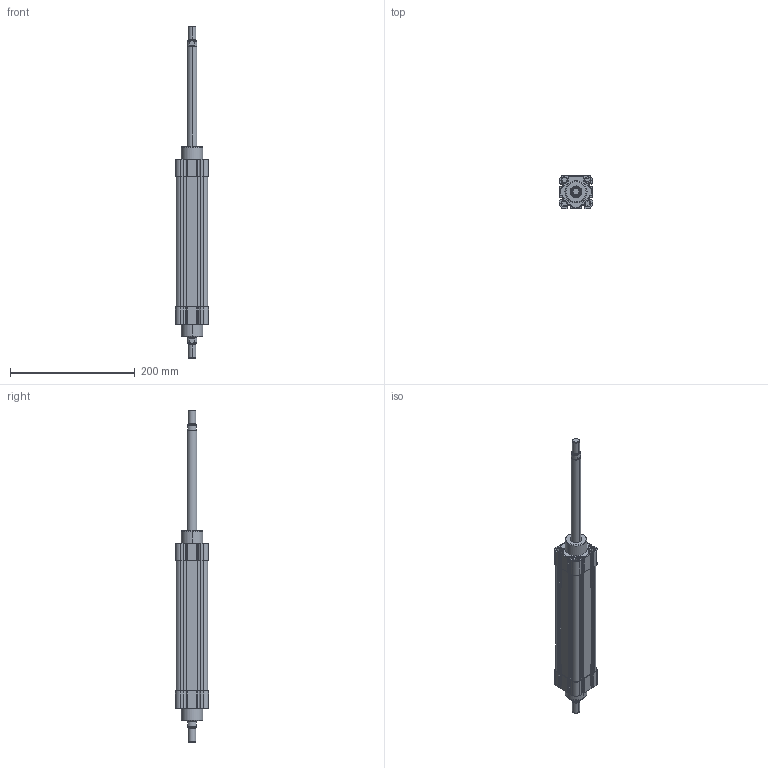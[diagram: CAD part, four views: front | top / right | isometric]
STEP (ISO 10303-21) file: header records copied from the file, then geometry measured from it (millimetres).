
FILE_DESCRIPTION((''),'2;1');
FILE_NAME('N11M40400160.stp','2010-01-06T14:25:08',('B. Petkovic 2010'),('AZ PNEUMATICA S.r.l.'),'Mechanical Desktop 2006','Mechanical Desktop 2006','Via Marco Biagi 6, I-20020 Misinto(MI) Italy, azpneu@tin.it');
FILE_SCHEMA(('CONFIG_CONTROL_DESIGN'));
Length unit declared in the file: millimetre
Products named in the file (2): N11M40320160; CILINDAR
Assembly tree (1 placements, depth 2):
  N11M40320160
    CILINDAR
Bounding box: 53 x 53 x 533 mm (x, y, z)
Volume: 690074.4 mm3; surface area: 106170 mm2
Topology: 1 solids, 1 shells, 529 faces, 1371 edges, 892 vertices
Faces by surface type: plane 299, cylinder 202, torus 12, cone 8, bspline 8
Entity records: 16818 total; most frequent: CARTESIAN_POINT 3346, DIRECTION 2897, ORIENTED_EDGE 2742, EDGE_CURVE 1371, AXIS2_PLACEMENT_3D 1011, VERTEX_POINT 892, VECTOR 875, LINE 875
